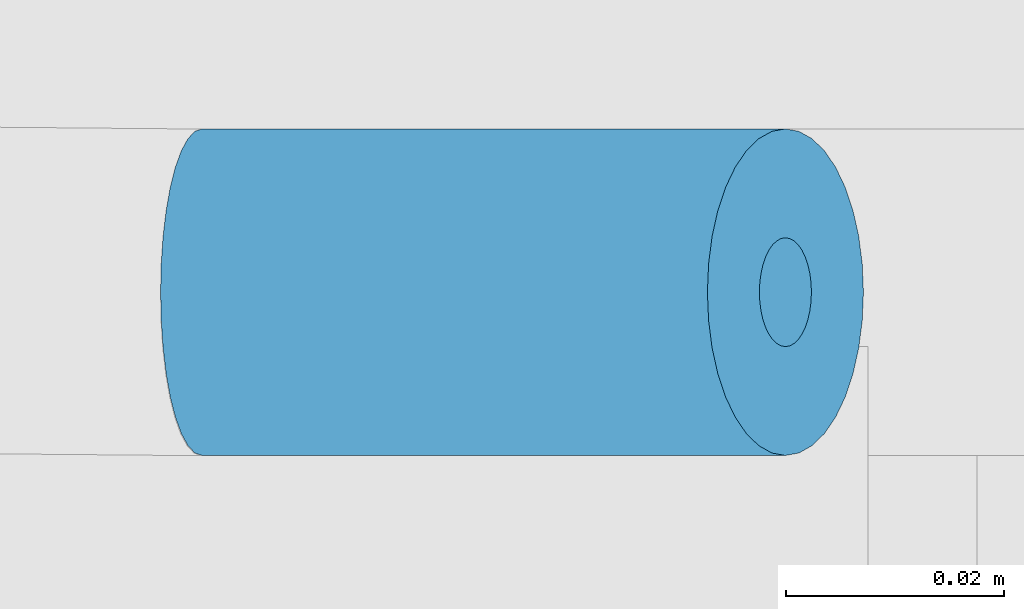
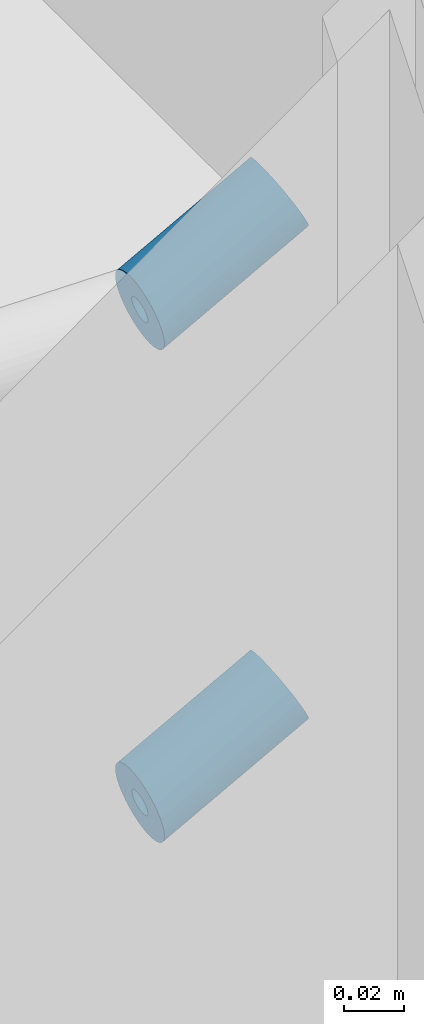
# One storey, part 229 of 301: 2 building element parts, 1 element without a shape of its own.
"""IFC2X3 building model written with IfcOpenShell, lengths in millimetres."""

import ifcopenshell
import ifcopenshell.guid

model = None  # the IFC model being written
_history = None  # IfcOwnerHistory: only IFC2X3 demands one
_inside = {}  # id of a spatial element -> (the spatial element, [elements in it])
_under = {}  # id of a project, library or spatial element -> (it, [spatial elements below it])
_declared = {}  # id of a project -> (the project, [libraries it declares])
_typed = {}  # id of a type object -> (the type object, [elements of that type])
_made_of = {}  # id of a material, layer set ... -> (it, [elements and type objects made of it])


def new_model(schema):
    """Start an empty IFC model of exactly this schema.

    Asked for "IFC4X3", IfcOpenShell would pick the latest addendum, in which some entities
    have other attributes; the version numbers below select the first issue.
    IFC2X3 requires an IfcOwnerHistory on every rooted entity: one is made here for all.
    """
    global model, _history
    if schema == "IFC4X3":
        model = ifcopenshell.file(schema_version=(4, 3, 0, 0))
    else:
        model = ifcopenshell.file(schema=schema)
    _inside.clear()
    _under.clear()
    _declared.clear()
    _typed.clear()
    _made_of.clear()
    _history = None
    if model.schema == "IFC2X3":
        org = make("IfcOrganization", Name="unknown")
        user = make(
            "IfcPersonAndOrganization",
            ThePerson=make("IfcPerson", FamilyName="unknown"),
            TheOrganization=org,
        )
        app = make(
            "IfcApplication",
            ApplicationDeveloper=org,
            Version="unknown",
            ApplicationFullName="unknown",
            ApplicationIdentifier="unknown",
        )
        _history = make(
            "IfcOwnerHistory",
            OwningUser=user,
            OwningApplication=app,
            ChangeAction="ADDED",
            CreationDate=0,
        )
    return model


def make(cls, **values):
    """One entity of the class cls with the attributes given. An attribute that is None is left unset."""
    return model.create_entity(
        cls, **{name: value for name, value in values.items() if value is not None}
    )


def entity(cls, *values):
    """Any entity or typed value of the class cls, its attributes in the order of the schema. None: left unset."""
    e = model.create_entity(cls)
    for i, value in enumerate(values):
        if value is not None:
            e[i] = value
    return e


def rooted(cls, **values):
    """An entity with a GlobalId (a new one), such as an element, a storey or a relation."""
    return make(cls, GlobalId=ifcopenshell.guid.new(), OwnerHistory=_history, **values)


def si_unit(unit_type, name, prefix=None):
    """IfcSIUnit, for example si_unit("LENGTHUNIT", "METRE", prefix="MILLI")."""
    return make("IfcSIUnit", UnitType=unit_type, Prefix=prefix, Name=name)


def converted_unit(unit_type, name, factor, base, dimensions=None, offset=None):
    """IfcConversionBasedUnit, such as the inch: factor (a typed value) times the base unit."""
    return make(
        "IfcConversionBasedUnit"
        if offset is None
        else "IfcConversionBasedUnitWithOffset",
        ConversionOffset=offset,
        Dimensions=None
        if dimensions is None
        else entity("IfcDimensionalExponents", *dimensions),
        UnitType=unit_type,
        Name=name,
        ConversionFactor=make(
            "IfcMeasureWithUnit", ValueComponent=factor, UnitComponent=base
        ),
    )


def derived_unit(unit_type, elements):
    """IfcDerivedUnit: a product of units, each with its exponent."""
    return make(
        "IfcDerivedUnit",
        Elements=[
            make("IfcDerivedUnitElement", Unit=unit, Exponent=power)
            for unit, power in elements
        ],
        UnitType=unit_type,
    )


def money_unit(currency):
    """IfcMonetaryUnit."""
    return make("IfcMonetaryUnit", Currency=currency)


def assignment(units):
    """IfcUnitAssignment: the units of a project."""
    return None if units is None else make("IfcUnitAssignment", Units=units)


def point(xyz):
    """IfcCartesianPoint."""
    return None if xyz is None else make("IfcCartesianPoint", Coordinates=xyz)


def direction(xyz):
    """IfcDirection."""
    return None if xyz is None else make("IfcDirection", DirectionRatios=xyz)


def frame(location, z_axis=None, x_axis=None):
    """IfcAxis2Placement3D, a coordinate frame: its origin and axes. An axis left out is left unset."""
    return make(
        "IfcAxis2Placement3D",
        Location=point(location),
        Axis=direction(z_axis),
        RefDirection=direction(x_axis),
    )


def origin_with_axes():
    """The frame at (0, 0, 0) with the z axis (0, 0, 1) and the x axis (1, 0, 0) written out."""
    return frame((0.0, 0.0, 0.0), z_axis=(0.0, 0.0, 1.0), x_axis=(1.0, 0.0, 0.0))


def place(relative_to, where):
    """IfcLocalPlacement: puts the frame where relative to a parent placement (None: the world)."""
    return make(
        "IfcLocalPlacement", PlacementRelTo=relative_to, RelativePlacement=where
    )


def context(
    kind, dimensions, precision=None, world=None, true_north=None, identifier=None
):
    """IfcGeometricRepresentationContext, for example the 3D "Model" context."""
    return make(
        "IfcGeometricRepresentationContext",
        ContextIdentifier=identifier,
        ContextType=kind,
        CoordinateSpaceDimension=dimensions,
        Precision=precision,
        WorldCoordinateSystem=world,
        TrueNorth=true_north,
    )


def subcontext(parent, identifier, kind, view, scale=None):
    """IfcGeometricRepresentationSubContext, for example "Body" below "Model"."""
    return make(
        "IfcGeometricRepresentationSubContext",
        ContextIdentifier=identifier,
        ContextType=kind,
        ParentContext=parent,
        TargetScale=scale,
        TargetView=view,
    )


def project(units=None, contexts=None):
    """IfcProject with its units and contexts."""
    return rooted(
        "IfcProject",
        Name="project",
        RepresentationContexts=contexts,
        UnitsInContext=assignment(units),
    )


def spatial(cls, under=None, at=None, **own):
    """A site, building, storey or space (cls), placed at a placement, below another one or the project."""
    s = rooted(cls, ObjectPlacement=at, **own)
    if under is not None:
        _under.setdefault(under.id(), (under, []))[1].append(s)
    return s


def faces_of(points, faces, orient=None, outer=None):
    """IfcFace entities. A face is a list of loops; a loop is a list of indices into points, from 0.

    orient and outer hold one flag for each loop. By default every Orientation is true, the
    first loop of a face is its IfcFaceOuterBound and the others are IfcFaceBound.
    """
    made = []
    for i, loops in enumerate(faces):
        bounds = []
        for j, loop in enumerate(loops):
            is_outer = j == 0 if outer is None else outer[i][j]
            bounds.append(
                make(
                    "IfcFaceOuterBound" if is_outer else "IfcFaceBound",
                    Bound=make("IfcPolyLoop", Polygon=[points[k] for k in loop]),
                    Orientation=True if orient is None else orient[i][j],
                )
            )
        made.append(make("IfcFace", Bounds=bounds))
    return made


def faceted_brep(points, faces, orient=None, outer=None, voids=None):
    """IfcFacetedBrep: a solid bounded by flat faces; with voids (closed shells), ...WithVoids."""
    shared = [point(p) for p in points]
    hull = make("IfcClosedShell", CfsFaces=faces_of(shared, faces, orient, outer))
    if voids is None:
        return make("IfcFacetedBrep", Outer=hull)
    return make(
        "IfcFacetedBrepWithVoids",
        Outer=hull,
        Voids=[
            make(cls, CfsFaces=faces_of(shared, fs, o, b)) for cls, fs, o, b in voids
        ],
    )


def shape(context_of_items, identifier, shape_type, items):
    """IfcShapeRepresentation: the items that make up one representation, for example the "Body"."""
    return make(
        "IfcShapeRepresentation",
        ContextOfItems=context_of_items,
        RepresentationIdentifier=identifier,
        RepresentationType=shape_type,
        Items=items,
    )


def material(Name=None, Category=None):
    """IfcMaterial."""
    return make("IfcMaterial", Name=Name, Category=Category)


def made_of(thing, what):
    """Note that an element or type object is made of a material, layer set ...; save() writes the relation."""
    if what is not None:
        _made_of.setdefault(what.id(), (what, []))[1].append(thing)
    return thing


def type_object(cls, material=None, **own):
    """A type object (cls), such as IfcWallType, which elements share."""
    return made_of(rooted(cls, **own), material)


def element(
    cls,
    number,
    at=None,
    inside=None,
    cuts=None,
    type_object=None,
    material=None,
    context=None,
    identifier="Body",
    shape_type=None,
    held_by="IfcProductDefinitionShape",
    body=None,
    shapes=None,
    **own,
):
    """One element of the class cls, such as IfcWall. Its Tag is "e" and its number.

    at: its placement. inside: the storey or other place that contains it. cuts: it is an
    opening in that element (IfcRelVoidsElement). A single representation is given by context,
    identifier, shape_type and body (its items); several are given by shapes. held_by: the class
    of the entity that holds the representations. save() writes the other relations.
    """
    e = rooted(cls, Tag="e%d" % number, ObjectPlacement=at, **own)
    if body is not None:
        shapes = [shape(context, identifier, shape_type, body)]
    if shapes is not None:
        e.Representation = make(held_by, Representations=shapes)
    if inside is not None:
        _inside.setdefault(inside.id(), (inside, []))[1].append(e)
    if cuts is not None:
        rooted(
            "IfcRelVoidsElement", RelatingBuildingElement=cuts, RelatedOpeningElement=e
        )
    if type_object is not None:
        _typed.setdefault(type_object.id(), (type_object, []))[1].append(e)
    return made_of(e, material)


def aggregate(whole, parts):
    """IfcRelAggregates: a whole, such as a stair, and the parts it consists of."""
    return rooted("IfcRelAggregates", RelatingObject=whole, RelatedObjects=parts)


def save(model, path):
    """Write the relations noted so far, then the file.

    IfcRelAggregates (storeys below a building ...), IfcRelContainedInSpatialStructure (elements
    in a storey), IfcRelDefinesByType, IfcRelAssociatesMaterial and IfcRelDeclares: one each for
    every whole, place, type object, material and project.
    """
    for whole, parts in _under.values():
        aggregate(whole, parts)
    for where, things in _inside.values():
        rooted(
            "IfcRelContainedInSpatialStructure",
            RelatedElements=things,
            RelatingStructure=where,
        )
    for kind, things in _typed.values():
        rooted("IfcRelDefinesByType", RelatedObjects=things, RelatingType=kind)
    for what, things in _made_of.values():
        rooted("IfcRelAssociatesMaterial", RelatedObjects=things, RelatingMaterial=what)
    for by, libraries in _declared.values():
        rooted("IfcRelDeclares", RelatingContext=by, RelatedDefinitions=libraries)
    model.write(path)


model = new_model("IFC2X3")

# Units and contexts
model_context = context("Model", 3, precision=0.01, world=origin_with_axes(), true_north=direction((0.0, 1.0)))
body_context = subcontext(model_context, "Body", "Model", "MODEL_VIEW")
ifc_project = project(units=[si_unit("LENGTHUNIT", "METRE", prefix="MILLI"), si_unit("AREAUNIT", "SQUARE_METRE"), si_unit("VOLUMEUNIT", "CUBIC_METRE"), converted_unit("PLANEANGLEUNIT", "DEGREE", entity("IfcPlaneAngleMeasure", 0.0174532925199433), si_unit("PLANEANGLEUNIT", "RADIAN"), dimensions=[0, 0, 0, 0, 0, 0, 0]), money_unit("EUR"), converted_unit("TIMEUNIT", "Year", entity("IfcTimeMeasure", 31557600.0), si_unit("TIMEUNIT", "SECOND"), dimensions=[0, 0, 1, 0, 0, 0, 0]), si_unit("MASSUNIT", "GRAM", prefix="KILO"), si_unit("THERMODYNAMICTEMPERATUREUNIT", "DEGREE_CELSIUS"), si_unit("LUMINOUSINTENSITYUNIT", "LUMEN"), si_unit("ENERGYUNIT", "JOULE", prefix="MEGA"), derived_unit("THERMALCONDUCTANCEUNIT", [(si_unit("POWERUNIT", "WATT"), 1), (si_unit("LENGTHUNIT", "METRE"), -1), (si_unit("THERMODYNAMICTEMPERATUREUNIT", "KELVIN"), -1)]), derived_unit("SPECIFICHEATCAPACITYUNIT", [(si_unit("ENERGYUNIT", "JOULE"), 1), (si_unit("MASSUNIT", "GRAM", prefix="KILO"), -1), (si_unit("THERMODYNAMICTEMPERATUREUNIT", "KELVIN"), -1)]), derived_unit("MASSDENSITYUNIT", [(si_unit("MASSUNIT", "GRAM", prefix="KILO"), 1), (si_unit("VOLUMEUNIT", "CUBIC_METRE"), -1)])], contexts=[model_context])

# Site, building, storey
site_placement = place(None, frame((0.0, 0.0, 8650.0), z_axis=(0.0, 0.0, 1.0), x_axis=(1.0, 0.0, 0.0)))
site = spatial("IfcSite", under=ifc_project, at=site_placement, Name="43301:001:0844", CompositionType="ELEMENT")
building_placement = place(site_placement, origin_with_axes())
building = spatial("IfcBuilding", under=site, at=building_placement, Name="Kuressaare Ametikooli tuulikute mehaanikute õppekorpus", CompositionType="ELEMENT")
storey_placement = place(building_placement, origin_with_axes())
storey = spatial("IfcBuildingStorey", under=building, at=storey_placement, Name="1.korrus", CompositionType="ELEMENT", Elevation=0.0)

# Railing, building element parts
railing_type = type_object("IfcRailingType", Name="Railing Type", PredefinedType="NOTDEFINED")
railing_placement = place(storey_placement, frame((107882.9493746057, 26509.57374875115, 157.6923606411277), z_axis=(0.0, 0.0, 1.0), x_axis=(1.0, 0.0, 0.0)))
railing = element("IfcRailing", 1, at=railing_placement, inside=storey, type_object=railing_type, Name="Piire", PredefinedType="NOTDEFINED")
ifc_material = material(Name="Metall - Teras - Roostevaba")
building_element_part_1_placement = place(railing_placement, origin_with_axes())
building_element_part_1 = element("IfcBuildingElementPart", 2, at=building_element_part_1_placement, material=ifc_material, Name="Metall - Teras - Roostevaba", context=body_context, shape_type="Brep", body=[
    faceted_brep([(3721.13041372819, 45.07596123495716, 2607.204034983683), (3721.545180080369, 45.00000000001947, 2606.44126954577), (3667.967820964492, 45.00000000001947, 2577.30769230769), (3667.747026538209, 45.07596123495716, 2578.175933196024), (3720.300881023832, 35.22788370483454, 2608.729565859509), (3721.545180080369, 35.00000000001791, 2606.44126954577), (3722.789479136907, 35.22788370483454, 2604.152973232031), (3723.995970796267, 35.90461068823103, 2601.934205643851), (3725.127996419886, 37.00961894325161, 2599.852382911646), (3726.15115998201, 38.50933335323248, 2597.970760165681), (3727.03437317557, 40.35818585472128, 2596.346509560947), (3727.75080001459, 42.50000000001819, 2595.028983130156), (3728.278672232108, 44.86969785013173, 2594.058213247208), (3728.601950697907, 47.39527733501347, 2593.463696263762), (3728.710812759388, 50.00000000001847, 2593.263496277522), (3728.601950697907, 52.60472266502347, 2593.463696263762), (3728.278672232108, 55.13030214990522, 2594.058213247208), (3727.75080001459, 57.50000000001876, 2595.028983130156), (3727.03437317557, 59.64181414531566, 2596.346509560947), (3726.15115998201, 61.49066664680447, 2597.970760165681), (3725.127996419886, 62.99038105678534, 2599.852382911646), (3723.995970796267, 64.09538931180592, 2601.934205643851), (3722.789479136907, 64.77211629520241, 2604.152973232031), (3721.545180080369, 65.00000000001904, 2606.44126954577), (3720.300881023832, 64.77211629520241, 2608.729565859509), (3719.094389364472, 64.09538931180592, 2610.948333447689), (3717.962363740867, 62.99038105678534, 2613.030156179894), (3716.939200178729, 61.49066664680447, 2614.911778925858), (3716.055986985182, 59.64181414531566, 2616.536029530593), (3715.339560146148, 57.50000000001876, 2617.853555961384), (3714.811687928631, 55.13030214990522, 2618.824325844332), (3714.488409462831, 52.60472266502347, 2619.418842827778), (3714.37954740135, 50.00000000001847, 2619.619042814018), (3714.488409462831, 47.39527733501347, 2619.418842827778), (3714.811687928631, 44.86969785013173, 2618.824325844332), (3715.339560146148, 42.50000000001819, 2617.853555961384), (3716.055986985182, 40.35818585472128, 2616.536029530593), (3716.939200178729, 38.50933335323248, 2614.911778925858), (3717.962363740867, 37.00961894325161, 2613.030156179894), (3719.094389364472, 35.90461068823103, 2610.948333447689), (3721.959946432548, 45.07596123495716, 2605.678504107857), (3720.728249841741, 45.30153689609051, 2607.943624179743), (3720.350907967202, 45.66987298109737, 2608.637565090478), (3720.009853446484, 46.16977778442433, 2609.264772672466), (3719.715449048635, 46.78606195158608, 2609.806189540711), (3719.4766401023, 47.5000000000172, 2610.245365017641), (3719.300682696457, 48.28989928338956, 2610.568954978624), (3719.192923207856, 49.13175911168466, 2610.767127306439), (3719.156635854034, 50.00000000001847, 2610.833860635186), (3719.192923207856, 50.86824088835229, 2610.767127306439), (3719.300682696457, 51.71010071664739, 2610.568954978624), (3719.4766401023, 52.50000000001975, 2610.245365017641), (3719.715449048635, 53.21393804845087, 2609.806189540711), (3720.009853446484, 53.83022221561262, 2609.264772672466), (3720.350907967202, 54.33012701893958, 2608.637565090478), (3720.728249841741, 54.69846310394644, 2607.943624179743), (3721.13041372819, 54.92403876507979, 2607.204034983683), (3721.545180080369, 55.00000000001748, 2606.44126954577), (3721.959946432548, 54.92403876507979, 2605.678504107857), (3722.362110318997, 54.69846310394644, 2604.938914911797), (3722.739452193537, 54.33012701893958, 2604.244974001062), (3723.080506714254, 53.83022221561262, 2603.617766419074), (3723.374911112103, 53.21393804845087, 2603.076349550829), (3723.613720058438, 52.50000000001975, 2602.637174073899), (3723.789677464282, 51.71010071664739, 2602.313584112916), (3723.897436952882, 50.86824088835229, 2602.115411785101), (3723.933724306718, 50.00000000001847, 2602.048678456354), (3723.897436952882, 49.13175911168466, 2602.115411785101), (3723.789677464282, 48.28989928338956, 2602.313584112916), (3723.613720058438, 47.5000000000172, 2602.637174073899), (3723.374911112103, 46.78606195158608, 2603.076349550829), (3723.080506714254, 46.16977778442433, 2603.617766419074), (3722.739452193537, 45.66987298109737, 2604.244974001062), (3722.362110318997, 45.30153689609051, 2604.938914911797), (3668.188615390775, 45.07596123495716, 2576.439451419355), (3666.060564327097, 62.99038105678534, 2584.80769230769), (3666.663180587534, 64.09538931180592, 2582.437994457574), (3667.305437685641, 64.77211629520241, 2579.912414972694), (3667.967820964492, 65.00000000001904, 2577.30769230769), (3668.630204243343, 64.77211629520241, 2574.702969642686), (3669.27246134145, 64.09538931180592, 2572.177390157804), (3669.875077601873, 62.99038105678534, 2569.80769230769), (3670.419742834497, 61.49066664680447, 2567.665878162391), (3670.889907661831, 59.64181414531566, 2565.817025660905), (3671.271286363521, 57.50000000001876, 2564.317311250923), (3671.552290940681, 55.13030214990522, 2563.212302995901), (3671.724383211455, 52.60472266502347, 2562.535576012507), (3671.782334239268, 50.00000000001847, 2562.30769230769), (3671.724383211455, 47.39527733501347, 2562.535576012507), (3671.552290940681, 44.86969785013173, 2563.212302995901), (3671.271286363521, 42.50000000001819, 2564.317311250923), (3670.889907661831, 40.35818585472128, 2565.817025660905), (3670.419742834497, 38.50933335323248, 2567.665878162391), (3669.875077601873, 37.00961894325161, 2569.80769230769), (3669.27246134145, 35.90461068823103, 2572.177390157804), (3668.630204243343, 35.22788370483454, 2574.702969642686), (3667.967820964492, 35.00000000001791, 2577.30769230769), (3667.305437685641, 35.22788370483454, 2579.912414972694), (3666.663180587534, 35.90461068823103, 2582.437994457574), (3666.060564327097, 37.00961894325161, 2584.80769230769), (3665.515899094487, 38.50933335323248, 2586.949506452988), (3665.045734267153, 40.35818585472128, 2588.798358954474), (3664.664355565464, 42.50000000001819, 2590.298073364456), (3664.383350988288, 44.86969785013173, 2591.403081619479), (3664.211258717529, 47.39527733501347, 2592.079808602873), (3664.153307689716, 50.00000000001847, 2592.30769230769), (3664.211258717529, 52.60472266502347, 2592.079808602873), (3664.383350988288, 55.13030214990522, 2591.403081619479), (3664.664355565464, 57.50000000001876, 2590.298073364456), (3665.045734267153, 59.64181414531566, 2588.798358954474), (3665.515899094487, 61.49066664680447, 2586.949506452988), (3668.603573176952, 54.33012701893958, 2574.80769230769), (3668.402701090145, 54.69846310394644, 2575.597591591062), (3668.188615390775, 54.92403876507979, 2576.439451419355), (3667.967820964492, 55.00000000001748, 2577.30769230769), (3667.747026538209, 54.92403876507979, 2578.175933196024), (3667.532940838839, 54.69846310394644, 2579.017793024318), (3667.332068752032, 54.33012701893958, 2579.80769230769), (3667.150513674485, 53.83022221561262, 2580.521630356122), (3666.993792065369, 53.21393804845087, 2581.137914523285), (3666.866665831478, 52.50000000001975, 2581.637819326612), (3666.772997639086, 51.71010071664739, 2582.006155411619), (3666.715633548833, 50.86824088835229, 2582.231731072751), (3666.696316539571, 50.00000000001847, 2582.30769230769), (3666.715633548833, 49.13175911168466, 2582.231731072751), (3666.772997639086, 48.28989928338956, 2582.006155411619), (3666.866665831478, 47.5000000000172, 2581.637819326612), (3666.993792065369, 46.78606195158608, 2581.137914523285), (3667.150513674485, 46.16977778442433, 2580.521630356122), (3667.332068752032, 45.66987298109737, 2579.80769230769), (3667.532940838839, 45.30153689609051, 2579.017793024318), (3668.402701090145, 45.30153689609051, 2575.597591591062), (3668.603573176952, 45.66987298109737, 2574.80769230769), (3668.785128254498, 46.16977778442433, 2574.093754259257), (3668.9418498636, 46.78606195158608, 2573.477470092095), (3669.068976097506, 47.5000000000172, 2572.977565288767), (3669.162644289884, 48.28989928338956, 2572.60922920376), (3669.220008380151, 49.13175911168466, 2572.383653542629), (3669.239325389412, 50.00000000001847, 2572.30769230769), (3669.220008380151, 50.86824088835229, 2572.383653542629), (3669.162644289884, 51.71010071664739, 2572.60922920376), (3669.068976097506, 52.50000000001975, 2572.977565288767), (3668.9418498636, 53.21393804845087, 2573.477470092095), (3668.785128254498, 53.83022221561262, 2574.093754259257)], [[[0, 1, 2, 3]], [[4, 5, 6, 7, 8, 9, 10, 11, 12, 13, 14, 15, 16, 17, 18, 19, 20, 21, 22, 23, 24, 25, 26, 27, 28, 29, 30, 31, 32, 33, 34, 35, 36, 37, 38, 39], [40, 1, 0, 41, 42, 43, 44, 45, 46, 47, 48, 49, 50, 51, 52, 53, 54, 55, 56, 57, 58, 59, 60, 61, 62, 63, 64, 65, 66, 67, 68, 69, 70, 71, 72, 73]], [[1, 40, 74, 2]], [[75, 76, 77, 78, 79, 80, 81, 82, 83, 84, 85, 86, 87, 88, 89, 90, 91, 92, 93, 94, 95, 96, 97, 98, 99, 100, 101, 102, 103, 104, 105, 106, 107, 108, 109, 110], [111, 112, 113, 114, 115, 116, 117, 118, 119, 120, 121, 122, 123, 124, 125, 126, 127, 128, 129, 130, 3, 2, 74, 131, 132, 133, 134, 135, 136, 137, 138, 139, 140, 141, 142, 143]], [[41, 0, 3, 130]], [[5, 4, 97, 96]], [[6, 5, 96, 95]], [[7, 6, 95, 94]], [[8, 7, 94, 93]], [[9, 8, 93, 92]], [[10, 9, 92, 91]], [[11, 10, 91, 90]], [[12, 11, 90, 89]], [[13, 12, 89, 88]], [[14, 13, 88, 87]], [[15, 14, 87, 86]], [[16, 15, 86, 85]], [[17, 16, 85, 84]], [[18, 17, 84, 83]], [[19, 18, 83, 82]], [[20, 19, 82, 81]], [[21, 20, 81, 80]], [[22, 21, 80, 79]], [[23, 22, 79, 78]], [[24, 23, 78, 77]], [[25, 24, 77, 76]], [[26, 25, 76, 75]], [[27, 26, 75, 110]], [[28, 27, 110, 109]], [[29, 28, 109, 108]], [[30, 29, 108, 107]], [[31, 30, 107, 106]], [[32, 31, 106, 105]], [[33, 32, 105, 104]], [[34, 33, 104, 103]], [[35, 34, 103, 102]], [[36, 35, 102, 101]], [[37, 36, 101, 100]], [[38, 37, 100, 99]], [[39, 38, 99, 98]], [[4, 39, 98, 97]], [[42, 41, 130, 129]], [[43, 42, 129, 128]], [[44, 43, 128, 127]], [[45, 44, 127, 126]], [[46, 45, 126, 125]], [[47, 46, 125, 124]], [[48, 47, 124, 123]], [[49, 48, 123, 122]], [[50, 49, 122, 121]], [[51, 50, 121, 120]], [[52, 51, 120, 119]], [[53, 52, 119, 118]], [[54, 53, 118, 117]], [[55, 54, 117, 116]], [[56, 55, 116, 115]], [[57, 56, 115, 114]], [[58, 57, 114, 113]], [[59, 58, 113, 112]], [[60, 59, 112, 111]], [[61, 60, 111, 143]], [[62, 61, 143, 142]], [[63, 62, 142, 141]], [[64, 63, 141, 140]], [[65, 64, 140, 139]], [[66, 65, 139, 138]], [[67, 66, 138, 137]], [[68, 67, 137, 136]], [[69, 68, 136, 135]], [[70, 69, 135, 134]], [[71, 70, 134, 133]], [[72, 71, 133, 132]], [[73, 72, 132, 131]], [[40, 73, 131, 74]]]),
])
building_element_part_2_placement = place(railing_placement, origin_with_axes())
building_element_part_2 = element("IfcBuildingElementPart", 3, at=building_element_part_2_placement, material=ifc_material, Name="Metall - Teras - Roostevaba", context=body_context, shape_type="Brep", body=[
    faceted_brep([(3721.13041372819, 45.07596123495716, 2807.204034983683), (3721.545180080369, 45.00000000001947, 2806.44126954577), (3667.967820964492, 45.00000000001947, 2777.30769230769), (3667.747026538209, 45.07596123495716, 2778.175933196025), (3720.300881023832, 35.22788370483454, 2808.729565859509), (3721.545180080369, 35.00000000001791, 2806.44126954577), (3722.789479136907, 35.22788370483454, 2804.152973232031), (3723.995970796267, 35.90461068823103, 2801.934205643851), (3725.127996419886, 37.00961894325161, 2799.852382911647), (3726.15115998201, 38.50933335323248, 2797.970760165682), (3727.03437317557, 40.35818585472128, 2796.346509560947), (3727.75080001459, 42.50000000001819, 2795.028983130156), (3728.278672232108, 44.86969785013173, 2794.058213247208), (3728.601950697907, 47.39527733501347, 2793.463696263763), (3728.710812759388, 50.00000000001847, 2793.263496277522), (3728.601950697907, 52.60472266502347, 2793.463696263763), (3728.278672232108, 55.13030214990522, 2794.058213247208), (3727.75080001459, 57.50000000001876, 2795.028983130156), (3727.03437317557, 59.64181414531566, 2796.346509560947), (3726.15115998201, 61.49066664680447, 2797.970760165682), (3725.127996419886, 62.99038105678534, 2799.852382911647), (3723.995970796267, 64.09538931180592, 2801.934205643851), (3722.789479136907, 64.77211629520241, 2804.152973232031), (3721.545180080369, 65.00000000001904, 2806.44126954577), (3720.300881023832, 64.77211629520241, 2808.729565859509), (3719.094389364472, 64.09538931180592, 2810.948333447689), (3717.962363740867, 62.99038105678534, 2813.030156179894), (3716.939200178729, 61.49066664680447, 2814.911778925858), (3716.055986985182, 59.64181414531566, 2816.536029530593), (3715.339560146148, 57.50000000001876, 2817.853555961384), (3714.811687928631, 55.13030214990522, 2818.824325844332), (3714.488409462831, 52.60472266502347, 2819.418842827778), (3714.37954740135, 50.00000000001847, 2819.619042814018), (3714.488409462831, 47.39527733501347, 2819.418842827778), (3714.811687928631, 44.86969785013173, 2818.824325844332), (3715.339560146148, 42.50000000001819, 2817.853555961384), (3716.055986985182, 40.35818585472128, 2816.536029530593), (3716.939200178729, 38.50933335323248, 2814.911778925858), (3717.962363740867, 37.00961894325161, 2813.030156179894), (3719.094389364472, 35.90461068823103, 2810.948333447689), (3721.959946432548, 45.07596123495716, 2805.678504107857), (3720.728249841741, 45.30153689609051, 2807.943624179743), (3720.350907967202, 45.66987298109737, 2808.637565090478), (3720.009853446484, 46.16977778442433, 2809.264772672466), (3719.715449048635, 46.78606195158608, 2809.806189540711), (3719.4766401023, 47.5000000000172, 2810.245365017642), (3719.300682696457, 48.28989928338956, 2810.568954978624), (3719.192923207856, 49.13175911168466, 2810.767127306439), (3719.156635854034, 50.00000000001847, 2810.833860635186), (3719.192923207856, 50.86824088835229, 2810.767127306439), (3719.300682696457, 51.71010071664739, 2810.568954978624), (3719.4766401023, 52.50000000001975, 2810.245365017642), (3719.715449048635, 53.21393804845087, 2809.806189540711), (3720.009853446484, 53.83022221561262, 2809.264772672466), (3720.350907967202, 54.33012701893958, 2808.637565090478), (3720.728249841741, 54.69846310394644, 2807.943624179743), (3721.13041372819, 54.92403876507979, 2807.204034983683), (3721.545180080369, 55.00000000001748, 2806.44126954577), (3721.959946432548, 54.92403876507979, 2805.678504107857), (3722.362110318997, 54.69846310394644, 2804.938914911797), (3722.739452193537, 54.33012701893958, 2804.244974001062), (3723.080506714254, 53.83022221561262, 2803.617766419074), (3723.374911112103, 53.21393804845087, 2803.076349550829), (3723.613720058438, 52.50000000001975, 2802.637174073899), (3723.789677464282, 51.71010071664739, 2802.313584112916), (3723.897436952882, 50.86824088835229, 2802.115411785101), (3723.933724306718, 50.00000000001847, 2802.048678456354), (3723.897436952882, 49.13175911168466, 2802.115411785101), (3723.789677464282, 48.28989928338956, 2802.313584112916), (3723.613720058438, 47.5000000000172, 2802.637174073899), (3723.374911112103, 46.78606195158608, 2803.076349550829), (3723.080506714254, 46.16977778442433, 2803.617766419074), (3722.739452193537, 45.66987298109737, 2804.244974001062), (3722.362110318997, 45.30153689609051, 2804.938914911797), (3668.188615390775, 45.07596123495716, 2776.439451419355), (3666.060564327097, 62.99038105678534, 2784.80769230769), (3666.663180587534, 64.09538931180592, 2782.437994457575), (3667.305437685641, 64.77211629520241, 2779.912414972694), (3667.967820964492, 65.00000000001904, 2777.30769230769), (3668.630204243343, 64.77211629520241, 2774.702969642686), (3669.27246134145, 64.09538931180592, 2772.177390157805), (3669.875077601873, 62.99038105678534, 2769.80769230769), (3670.419742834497, 61.49066664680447, 2767.665878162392), (3670.889907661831, 59.64181414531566, 2765.817025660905), (3671.271286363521, 57.50000000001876, 2764.317311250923), (3671.552290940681, 55.13030214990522, 2763.212302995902), (3671.724383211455, 52.60472266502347, 2762.535576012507), (3671.782334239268, 50.00000000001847, 2762.30769230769), (3671.724383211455, 47.39527733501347, 2762.535576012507), (3671.552290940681, 44.86969785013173, 2763.212302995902), (3671.271286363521, 42.50000000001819, 2764.317311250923), (3670.889907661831, 40.35818585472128, 2765.817025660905), (3670.419742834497, 38.50933335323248, 2767.665878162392), (3669.875077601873, 37.00961894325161, 2769.80769230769), (3669.27246134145, 35.90461068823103, 2772.177390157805), (3668.630204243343, 35.22788370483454, 2774.702969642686), (3667.967820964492, 35.00000000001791, 2777.30769230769), (3667.305437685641, 35.22788370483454, 2779.912414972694), (3666.663180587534, 35.90461068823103, 2782.437994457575), (3666.060564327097, 37.00961894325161, 2784.80769230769), (3665.515899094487, 38.50933335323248, 2786.949506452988), (3665.045734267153, 40.35818585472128, 2788.798358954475), (3664.664355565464, 42.50000000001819, 2790.298073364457), (3664.383350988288, 44.86969785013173, 2791.403081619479), (3664.211258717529, 47.39527733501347, 2792.079808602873), (3664.153307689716, 50.00000000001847, 2792.30769230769), (3664.211258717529, 52.60472266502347, 2792.079808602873), (3664.383350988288, 55.13030214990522, 2791.403081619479), (3664.664355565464, 57.50000000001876, 2790.298073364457), (3665.045734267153, 59.64181414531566, 2788.798358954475), (3665.515899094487, 61.49066664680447, 2786.949506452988), (3668.603573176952, 54.33012701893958, 2774.80769230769), (3668.402701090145, 54.69846310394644, 2775.597591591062), (3668.188615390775, 54.92403876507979, 2776.439451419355), (3667.967820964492, 55.00000000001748, 2777.30769230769), (3667.747026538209, 54.92403876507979, 2778.175933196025), (3667.532940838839, 54.69846310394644, 2779.017793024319), (3667.332068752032, 54.33012701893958, 2779.80769230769), (3667.150513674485, 53.83022221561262, 2780.521630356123), (3666.993792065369, 53.21393804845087, 2781.137914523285), (3666.866665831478, 52.50000000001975, 2781.637819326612), (3666.772997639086, 51.71010071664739, 2782.00615541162), (3666.715633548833, 50.86824088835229, 2782.231731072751), (3666.696316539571, 50.00000000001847, 2782.30769230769), (3666.715633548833, 49.13175911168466, 2782.231731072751), (3666.772997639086, 48.28989928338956, 2782.00615541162), (3666.866665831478, 47.5000000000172, 2781.637819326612), (3666.993792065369, 46.78606195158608, 2781.137914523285), (3667.150513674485, 46.16977778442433, 2780.521630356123), (3667.332068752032, 45.66987298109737, 2779.80769230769), (3667.532940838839, 45.30153689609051, 2779.017793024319), (3668.402701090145, 45.30153689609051, 2775.597591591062), (3668.603573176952, 45.66987298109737, 2774.80769230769), (3668.785128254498, 46.16977778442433, 2774.093754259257), (3668.9418498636, 46.78606195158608, 2773.477470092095), (3669.068976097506, 47.5000000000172, 2772.977565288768), (3669.162644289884, 48.28989928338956, 2772.609229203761), (3669.220008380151, 49.13175911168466, 2772.383653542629), (3669.239325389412, 50.00000000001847, 2772.30769230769), (3669.220008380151, 50.86824088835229, 2772.383653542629), (3669.162644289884, 51.71010071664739, 2772.609229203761), (3669.068976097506, 52.50000000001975, 2772.977565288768), (3668.9418498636, 53.21393804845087, 2773.477470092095), (3668.785128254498, 53.83022221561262, 2774.093754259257)], [[[0, 1, 2, 3]], [[4, 5, 6, 7, 8, 9, 10, 11, 12, 13, 14, 15, 16, 17, 18, 19, 20, 21, 22, 23, 24, 25, 26, 27, 28, 29, 30, 31, 32, 33, 34, 35, 36, 37, 38, 39], [40, 1, 0, 41, 42, 43, 44, 45, 46, 47, 48, 49, 50, 51, 52, 53, 54, 55, 56, 57, 58, 59, 60, 61, 62, 63, 64, 65, 66, 67, 68, 69, 70, 71, 72, 73]], [[1, 40, 74, 2]], [[75, 76, 77, 78, 79, 80, 81, 82, 83, 84, 85, 86, 87, 88, 89, 90, 91, 92, 93, 94, 95, 96, 97, 98, 99, 100, 101, 102, 103, 104, 105, 106, 107, 108, 109, 110], [111, 112, 113, 114, 115, 116, 117, 118, 119, 120, 121, 122, 123, 124, 125, 126, 127, 128, 129, 130, 3, 2, 74, 131, 132, 133, 134, 135, 136, 137, 138, 139, 140, 141, 142, 143]], [[41, 0, 3, 130]], [[5, 4, 97, 96]], [[6, 5, 96, 95]], [[7, 6, 95, 94]], [[8, 7, 94, 93]], [[9, 8, 93, 92]], [[10, 9, 92, 91]], [[11, 10, 91, 90]], [[12, 11, 90, 89]], [[13, 12, 89, 88]], [[14, 13, 88, 87]], [[15, 14, 87, 86]], [[16, 15, 86, 85]], [[17, 16, 85, 84]], [[18, 17, 84, 83]], [[19, 18, 83, 82]], [[20, 19, 82, 81]], [[21, 20, 81, 80]], [[22, 21, 80, 79]], [[23, 22, 79, 78]], [[24, 23, 78, 77]], [[25, 24, 77, 76]], [[26, 25, 76, 75]], [[27, 26, 75, 110]], [[28, 27, 110, 109]], [[29, 28, 109, 108]], [[30, 29, 108, 107]], [[31, 30, 107, 106]], [[32, 31, 106, 105]], [[33, 32, 105, 104]], [[34, 33, 104, 103]], [[35, 34, 103, 102]], [[36, 35, 102, 101]], [[37, 36, 101, 100]], [[38, 37, 100, 99]], [[39, 38, 99, 98]], [[4, 39, 98, 97]], [[42, 41, 130, 129]], [[43, 42, 129, 128]], [[44, 43, 128, 127]], [[45, 44, 127, 126]], [[46, 45, 126, 125]], [[47, 46, 125, 124]], [[48, 47, 124, 123]], [[49, 48, 123, 122]], [[50, 49, 122, 121]], [[51, 50, 121, 120]], [[52, 51, 120, 119]], [[53, 52, 119, 118]], [[54, 53, 118, 117]], [[55, 54, 117, 116]], [[56, 55, 116, 115]], [[57, 56, 115, 114]], [[58, 57, 114, 113]], [[59, 58, 113, 112]], [[60, 59, 112, 111]], [[61, 60, 111, 143]], [[62, 61, 143, 142]], [[63, 62, 142, 141]], [[64, 63, 141, 140]], [[65, 64, 140, 139]], [[66, 65, 139, 138]], [[67, 66, 138, 137]], [[68, 67, 137, 136]], [[69, 68, 136, 135]], [[70, 69, 135, 134]], [[71, 70, 134, 133]], [[72, 71, 133, 132]], [[73, 72, 132, 131]], [[40, 73, 131, 74]]]),
])
aggregate(railing, [building_element_part_1, building_element_part_2])

save(model, "model.ifc")
